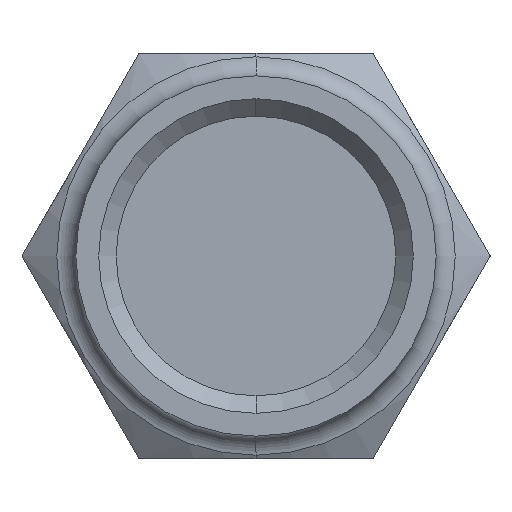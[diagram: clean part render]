
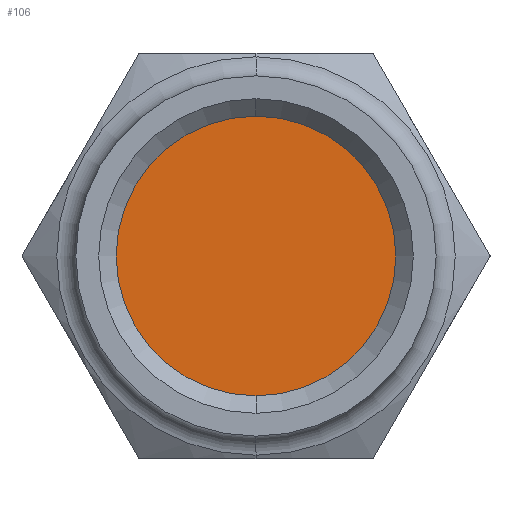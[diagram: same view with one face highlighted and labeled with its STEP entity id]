
A CAD part, left-side view. The second image highlights one B-rep face of the part: STEP entity #106.
In plain terms, the highlighted planar face has unit normal (-1, 0, 0).
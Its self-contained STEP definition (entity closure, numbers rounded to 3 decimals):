
#106 = ADVANCED_FACE( '', ( #185 ), #186, .F. );
#185 = FACE_OUTER_BOUND( '', #282, .T. );
#186 = PLANE( '', #283 );
#282 = EDGE_LOOP( '', ( #553, #554 ) );
#283 = AXIS2_PLACEMENT_3D( '', #555, #556, #557 );
#553 = ORIENTED_EDGE( '', *, *, #710, .T. );
#554 = ORIENTED_EDGE( '', *, *, #759, .T. );
#555 = CARTESIAN_POINT( '', ( 12.5, 0., -4.658 ) );
#556 = DIRECTION( '', ( 1., 0., 0. ) );
#557 = DIRECTION( '', ( 0., 0., 1. ) );
#710 = EDGE_CURVE( '', #847, #849, #851, .T. );
#759 = EDGE_CURVE( '', #849, #847, #927, .T. );
#847 = VERTEX_POINT( '', #1067 );
#849 = VERTEX_POINT( '', #1070 );
#851 = CIRCLE( '', #1073, 9.316 );
#927 = CIRCLE( '', #1211, 9.316 );
#1067 = CARTESIAN_POINT( '', ( 12.5, 0., -9.316 ) );
#1070 = CARTESIAN_POINT( '', ( 12.5, 0., 9.316 ) );
#1073 = AXIS2_PLACEMENT_3D( '', #1303, #1304, #1305 );
#1211 = AXIS2_PLACEMENT_3D( '', #1386, #1387, #1388 );
#1303 = CARTESIAN_POINT( '', ( 12.5, 0., 0. ) );
#1304 = DIRECTION( '', ( -1., 0., 0. ) );
#1305 = DIRECTION( '', ( 0., 0., -1. ) );
#1386 = CARTESIAN_POINT( '', ( 12.5, 0., 0. ) );
#1387 = DIRECTION( '', ( -1., 0., 0. ) );
#1388 = DIRECTION( '', ( 0., 0., -1. ) );
